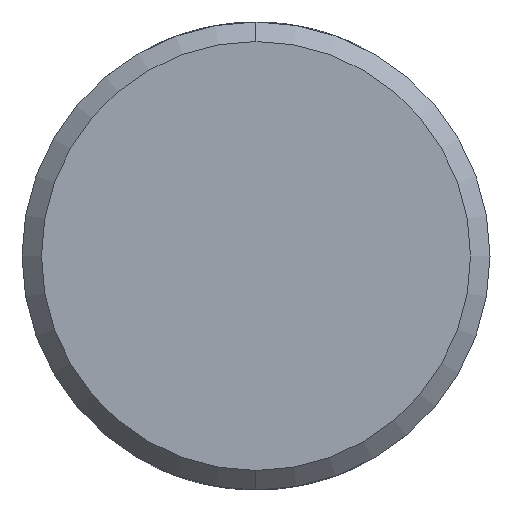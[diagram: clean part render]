
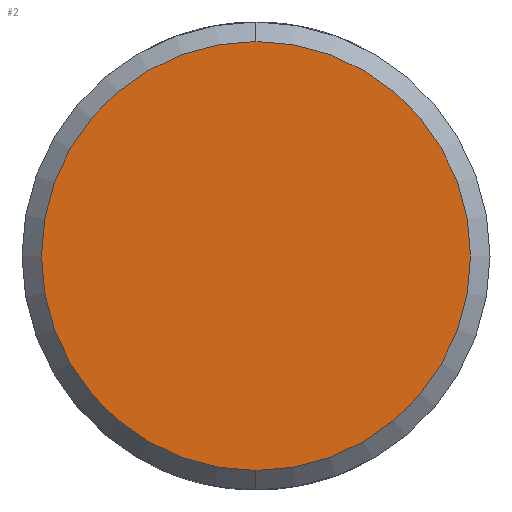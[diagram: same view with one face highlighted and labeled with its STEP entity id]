
A CAD part, left-side view. The second image highlights one B-rep face of the part: STEP entity #2.
In plain terms, the highlighted planar face has unit normal (-1, 0, 0).
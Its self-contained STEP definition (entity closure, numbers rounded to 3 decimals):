
#2 = ADVANCED_FACE ( 'NONE', ( #387 ), #843, .F. ) ;
#32 = ORIENTED_EDGE ( 'NONE', *, *, #338, .T. ) ;
#62 = ORIENTED_EDGE ( 'NONE', *, *, #709, .T. ) ;
#149 = AXIS2_PLACEMENT_3D ( 'NONE', #791, #929, #858 ) ;
#173 = AXIS2_PLACEMENT_3D ( 'NONE', #679, #216, #204 ) ;
#195 = VERTEX_POINT ( 'NONE', #582 ) ;
#204 = DIRECTION ( 'NONE',  ( 0., 0., -1. ) ) ;
#216 = DIRECTION ( 'NONE',  ( 1., 0., 0. ) ) ;
#338 = EDGE_CURVE ( 'NONE', #195, #973, #801, .T. ) ;
#387 = FACE_OUTER_BOUND ( 'NONE', #781, .T. ) ;
#485 = CIRCLE ( 'NONE', #149, 5.5 ) ;
#582 = CARTESIAN_POINT ( 'NONE',  ( -62., 0., -5.5 ) ) ;
#679 = CARTESIAN_POINT ( 'NONE',  ( -62., 0., 0. ) ) ;
#709 = EDGE_CURVE ( 'NONE', #973, #195, #485, .T. ) ;
#735 = CARTESIAN_POINT ( 'NONE',  ( -62., 0., 0. ) ) ;
#739 = DIRECTION ( 'NONE',  ( -1., 0., 0. ) ) ;
#745 = CARTESIAN_POINT ( 'NONE',  ( -62., 0., 5.5 ) ) ;
#781 = EDGE_LOOP ( 'NONE', ( #32, #62 ) ) ;
#791 = CARTESIAN_POINT ( 'NONE',  ( -62., 0., 0. ) ) ;
#801 = CIRCLE ( 'NONE', #932, 5.5 ) ;
#843 = PLANE ( 'NONE',  #173 ) ;
#858 = DIRECTION ( 'NONE',  ( 0., 0., -1. ) ) ;
#929 = DIRECTION ( 'NONE',  ( -1., 0., 0. ) ) ;
#932 = AXIS2_PLACEMENT_3D ( 'NONE', #735, #739, #960 ) ;
#960 = DIRECTION ( 'NONE',  ( 0., 0., -1. ) ) ;
#973 = VERTEX_POINT ( 'NONE', #745 ) ;
